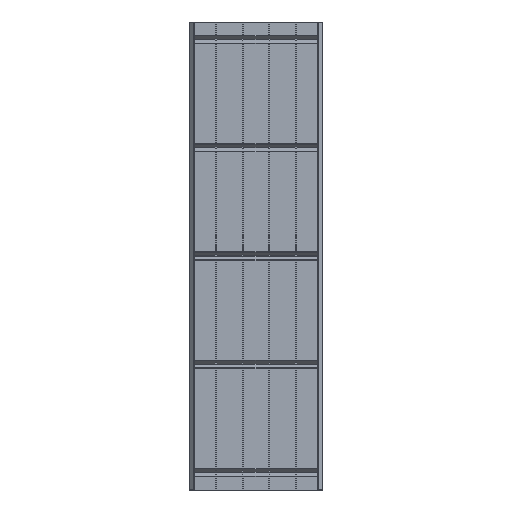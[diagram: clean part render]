
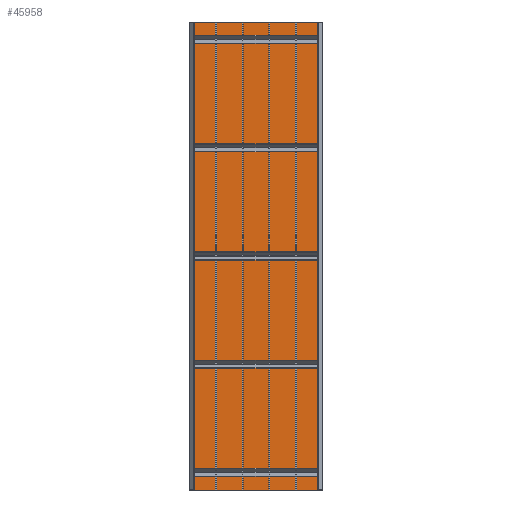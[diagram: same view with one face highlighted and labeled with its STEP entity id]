
A CAD part, front view. The second image highlights one B-rep face of the part: STEP entity #45958.
In plain terms, the highlighted planar face has unit normal (0, -1, 0).
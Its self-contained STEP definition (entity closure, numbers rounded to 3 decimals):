
#3064 = LINE ( 'NONE', #11866, #31532 ) ;
#3069 = ORIENTED_EDGE ( 'NONE', *, *, #36151, .F. ) ;
#3934 = EDGE_CURVE ( 'NONE', #29734, #32223, #3064, .T. ) ;
#4985 = VECTOR ( 'NONE', #32122, 1000. ) ;
#7358 = CARTESIAN_POINT ( 'NONE',  ( -419.1, -68.75, 3010. ) ) ;
#10784 = DIRECTION ( 'NONE',  ( 0., 0., 1. ) ) ;
#11642 = CARTESIAN_POINT ( 'NONE',  ( -419.1, -68.75, 20. ) ) ;
#11866 = CARTESIAN_POINT ( 'NONE',  ( 419.1, -68.75, 20. ) ) ;
#15065 = LINE ( 'NONE', #27591, #4985 ) ;
#15203 = CARTESIAN_POINT ( 'NONE',  ( -419.1, -68.75, 3010. ) ) ;
#18316 = FACE_OUTER_BOUND ( 'NONE', #34905, .T. ) ;
#18513 = CARTESIAN_POINT ( 'NONE',  ( -419.1, -68.75, 20. ) ) ;
#20171 = LINE ( 'NONE', #11642, #30413 ) ;
#27591 = CARTESIAN_POINT ( 'NONE',  ( -419.1, -68.75, 20. ) ) ;
#27911 = ORIENTED_EDGE ( 'NONE', *, *, #3934, .T. ) ;
#28098 = ORIENTED_EDGE ( 'NONE', *, *, #51313, .F. ) ;
#29734 = VERTEX_POINT ( 'NONE', #34207 ) ;
#30413 = VECTOR ( 'NONE', #10784, 1000. ) ;
#30855 = DIRECTION ( 'NONE',  ( 0., 0., -1. ) ) ;
#31408 = VECTOR ( 'NONE', #32560, 1000. ) ;
#31532 = VECTOR ( 'NONE', #41728, 1000. ) ;
#32122 = DIRECTION ( 'NONE',  ( 1., 0., 0. ) ) ;
#32223 = VERTEX_POINT ( 'NONE', #36781 ) ;
#32560 = DIRECTION ( 'NONE',  ( 1., 0., 0. ) ) ;
#34207 = CARTESIAN_POINT ( 'NONE',  ( 419.1, -68.75, 20. ) ) ;
#34905 = EDGE_LOOP ( 'NONE', ( #27911, #28098, #3069, #39282 ) ) ;
#35685 = PLANE ( 'NONE',  #43376 ) ;
#36151 = EDGE_CURVE ( 'NONE', #55016, #47944, #20171, .T. ) ;
#36781 = CARTESIAN_POINT ( 'NONE',  ( 419.1, -68.75, 3010. ) ) ;
#39282 = ORIENTED_EDGE ( 'NONE', *, *, #56171, .T. ) ;
#41728 = DIRECTION ( 'NONE',  ( 0., 0., 1. ) ) ;
#43376 = AXIS2_PLACEMENT_3D ( 'NONE', #52481, #43928, #30855 ) ;
#43928 = DIRECTION ( 'NONE',  ( 0., -1., 0. ) ) ;
#45958 = ADVANCED_FACE ( 'NONE', ( #18316 ), #35685, .T. ) ;
#47944 = VERTEX_POINT ( 'NONE', #7358 ) ;
#51313 = EDGE_CURVE ( 'NONE', #47944, #32223, #54205, .T. ) ;
#52481 = CARTESIAN_POINT ( 'NONE',  ( -419.1, -68.75, 20. ) ) ;
#54205 = LINE ( 'NONE', #15203, #31408 ) ;
#55016 = VERTEX_POINT ( 'NONE', #18513 ) ;
#56171 = EDGE_CURVE ( 'NONE', #55016, #29734, #15065, .T. ) ;
